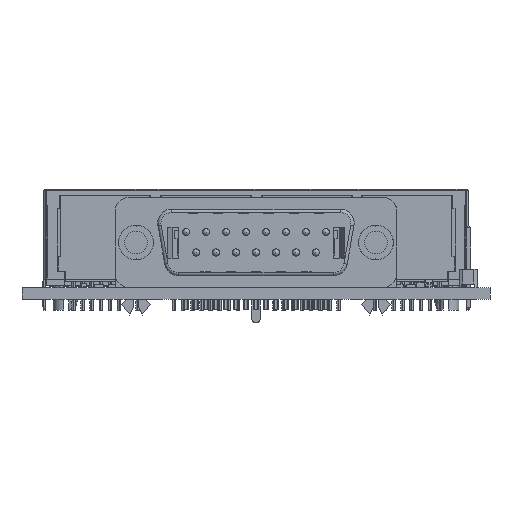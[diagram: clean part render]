
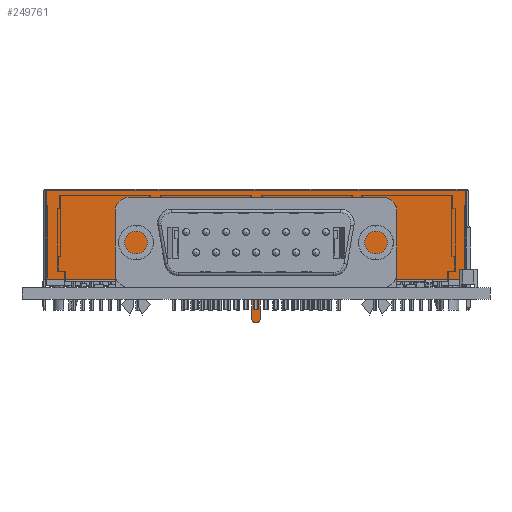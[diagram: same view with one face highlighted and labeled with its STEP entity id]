
A CAD part, front view. The second image highlights one B-rep face of the part: STEP entity #249761.
In plain terms, the highlighted planar face has unit normal (0, -1, 0).
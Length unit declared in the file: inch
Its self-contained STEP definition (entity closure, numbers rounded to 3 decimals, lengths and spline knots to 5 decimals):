
#370 = DIRECTION ( 'NONE',  ( 0., 1., 0. ) ) ;
#2899 = DIRECTION ( 'NONE',  ( 0., 0., 1. ) ) ;
#3264 = LINE ( 'NONE', #100275, #180293 ) ;
#3691 = CARTESIAN_POINT ( 'NONE',  ( -3.82835, 0.35409, 0.52913 ) ) ;
#6679 = DIRECTION ( 'NONE',  ( 1., 0., 0. ) ) ;
#10050 = CARTESIAN_POINT ( 'NONE',  ( -3.82835, 0.35409, 0.04528 ) ) ;
#10219 = DIRECTION ( 'NONE',  ( 1., 0., 0. ) ) ;
#18144 = ORIENTED_EDGE ( 'NONE', *, *, #245610, .F. ) ;
#22665 = CARTESIAN_POINT ( 'NONE',  ( -2.70079, 0.35409, -0.16732 ) ) ;
#27635 = VECTOR ( 'NONE', #139333, 39.37008 ) ;
#30532 = VECTOR ( 'NONE', #186225, 39.37008 ) ;
#33224 = EDGE_CURVE ( 'NONE', #44758, #241618, #164364, .T. ) ;
#35603 = EDGE_CURVE ( 'NONE', #69779, #212381, #254291, .T. ) ;
#35712 = CARTESIAN_POINT ( 'NONE',  ( -2.67717, 0.35409, -0.16732 ) ) ;
#40879 = CARTESIAN_POINT ( 'NONE',  ( -2.65354, 0.35409, -0.16732 ) ) ;
#44331 = AXIS2_PLACEMENT_3D ( 'NONE', #35712, #89658, #10219 ) ;
#44474 = VECTOR ( 'NONE', #92829, 39.37008 ) ;
#44758 = VERTEX_POINT ( 'NONE', #259964 ) ;
#46563 = ORIENTED_EDGE ( 'NONE', *, *, #167671, .T. ) ;
#47891 = LINE ( 'NONE', #146341, #195600 ) ;
#50536 = DIRECTION ( 'NONE',  ( -1., 0., 0. ) ) ;
#51600 = CARTESIAN_POINT ( 'NONE',  ( -3.75709, 0.35409, 0.52913 ) ) ;
#53239 = CARTESIAN_POINT ( 'NONE',  ( -1.52559, 0.35409, 0.52913 ) ) ;
#54108 = VERTEX_POINT ( 'NONE', #183049 ) ;
#56836 = VECTOR ( 'NONE', #2899, 39.37008 ) ;
#57549 = CARTESIAN_POINT ( 'NONE',  ( -2.67717, 0.35409, -0.16732 ) ) ;
#58123 = ORIENTED_EDGE ( 'NONE', *, *, #33224, .T. ) ;
#58623 = CARTESIAN_POINT ( 'NONE',  ( -2.10709, 0.35409, 0.52913 ) ) ;
#60163 = DIRECTION ( 'NONE',  ( 1., 0., 0. ) ) ;
#61062 = CARTESIAN_POINT ( 'NONE',  ( -3.82835, 0.35409, 0.52913 ) ) ;
#63952 = EDGE_CURVE ( 'NONE', #235309, #291465, #71002, .T. ) ;
#65056 = VERTEX_POINT ( 'NONE', #179749 ) ;
#67166 = VERTEX_POINT ( 'NONE', #61062 ) ;
#68508 = CARTESIAN_POINT ( 'NONE',  ( -2.70079, 0.35409, -0.16732 ) ) ;
#69779 = VERTEX_POINT ( 'NONE', #274725 ) ;
#70092 = VERTEX_POINT ( 'NONE', #99393 ) ;
#71002 = LINE ( 'NONE', #120217, #27635 ) ;
#78427 = EDGE_CURVE ( 'NONE', #142162, #70092, #204901, .T. ) ;
#82866 = ORIENTED_EDGE ( 'NONE', *, *, #261241, .F. ) ;
#83686 = VERTEX_POINT ( 'NONE', #58623 ) ;
#85349 = CARTESIAN_POINT ( 'NONE',  ( -1.52559, 0.35409, 0.04528 ) ) ;
#89658 = DIRECTION ( 'NONE',  ( 0., 1., 0. ) ) ;
#90257 = VECTOR ( 'NONE', #270096, 39.37008 ) ;
#92829 = DIRECTION ( 'NONE',  ( -1., 0., 0. ) ) ;
#99393 = CARTESIAN_POINT ( 'NONE',  ( -2.14528, 0.35409, 0.52913 ) ) ;
#100275 = CARTESIAN_POINT ( 'NONE',  ( -1.52559, 0.35409, 0.52913 ) ) ;
#100705 = DIRECTION ( 'NONE',  ( 0., 0., -1. ) ) ;
#102561 = ORIENTED_EDGE ( 'NONE', *, *, #208325, .F. ) ;
#102830 = EDGE_CURVE ( 'NONE', #142162, #128169, #239225, .T. ) ;
#104264 = CARTESIAN_POINT ( 'NONE',  ( -3.24528, 0.35409, 0.52913 ) ) ;
#106057 = CARTESIAN_POINT ( 'NONE',  ( -1.52598, 0.35409, 0.04528 ) ) ;
#106429 = VECTOR ( 'NONE', #100705, 39.37008 ) ;
#114369 = DIRECTION ( 'NONE',  ( -1., 0., 0. ) ) ;
#120025 = ORIENTED_EDGE ( 'NONE', *, *, #190289, .F. ) ;
#120217 = CARTESIAN_POINT ( 'NONE',  ( -1.52559, 0.35409, 0.04528 ) ) ;
#122306 = AXIS2_PLACEMENT_3D ( 'NONE', #243799, #370, #245358 ) ;
#128169 = VERTEX_POINT ( 'NONE', #302405 ) ;
#131129 = ORIENTED_EDGE ( 'NONE', *, *, #146800, .F. ) ;
#133534 = ORIENTED_EDGE ( 'NONE', *, *, #202315, .T. ) ;
#138377 = LINE ( 'NONE', #68508, #30532 ) ;
#139319 = ORIENTED_EDGE ( 'NONE', *, *, #241564, .T. ) ;
#139333 = DIRECTION ( 'NONE',  ( 1., 0., 0. ) ) ;
#142162 = VERTEX_POINT ( 'NONE', #292785 ) ;
#144380 = VECTOR ( 'NONE', #50536, 39.37008 ) ;
#146341 = CARTESIAN_POINT ( 'NONE',  ( -1.59528, 0.35409, 0.52913 ) ) ;
#146800 = EDGE_CURVE ( 'NONE', #65056, #128169, #222101, .T. ) ;
#152349 = CARTESIAN_POINT ( 'NONE',  ( -1.59528, 0.35409, 0.52913 ) ) ;
#152736 = CARTESIAN_POINT ( 'NONE',  ( -2.70079, 0.35409, 0.04528 ) ) ;
#164364 = LINE ( 'NONE', #85349, #199557 ) ;
#167671 = EDGE_CURVE ( 'NONE', #67166, #235309, #221703, .T. ) ;
#168445 = VERTEX_POINT ( 'NONE', #40879 ) ;
#170775 = EDGE_CURVE ( 'NONE', #44758, #168445, #177662, .T. ) ;
#171319 = LINE ( 'NONE', #268503, #144380 ) ;
#172465 = LINE ( 'NONE', #53239, #192885 ) ;
#177662 = LINE ( 'NONE', #247784, #90257 ) ;
#178882 = ORIENTED_EDGE ( 'NONE', *, *, #193450, .T. ) ;
#179749 = CARTESIAN_POINT ( 'NONE',  ( -3.20709, 0.35409, 0.52913 ) ) ;
#180269 = EDGE_LOOP ( 'NONE', ( #46563, #184571, #102561, #252309, #18144, #217241, #58123, #133534, #270438, #120025, #252620, #248582, #192641, #131129, #178882, #82866, #139319 ) ) ;
#180293 = VECTOR ( 'NONE', #279951, 39.37008 ) ;
#181361 = CIRCLE ( 'NONE', #44331, 0.02362 ) ;
#182354 = DIRECTION ( 'NONE',  ( 1., 0., 0. ) ) ;
#183049 = CARTESIAN_POINT ( 'NONE',  ( -1.52598, 0.35409, 0.52913 ) ) ;
#184571 = ORIENTED_EDGE ( 'NONE', *, *, #63952, .T. ) ;
#186000 = CARTESIAN_POINT ( 'NONE',  ( -1.52559, 0.35409, 0.52913 ) ) ;
#186225 = DIRECTION ( 'NONE',  ( 0., 0., 1. ) ) ;
#187644 = CARTESIAN_POINT ( 'NONE',  ( -3.24528, 0.35409, 0.52913 ) ) ;
#190289 = EDGE_CURVE ( 'NONE', #83686, #232681, #47891, .T. ) ;
#190374 = EDGE_CURVE ( 'NONE', #54108, #232681, #3264, .T. ) ;
#191374 = PLANE ( 'NONE',  #122306 ) ;
#192641 = ORIENTED_EDGE ( 'NONE', *, *, #102830, .T. ) ;
#192885 = VECTOR ( 'NONE', #218790, 39.37008 ) ;
#193450 = EDGE_CURVE ( 'NONE', #65056, #232587, #172465, .T. ) ;
#195600 = VECTOR ( 'NONE', #272110, 39.37008 ) ;
#199557 = VECTOR ( 'NONE', #182354, 39.37008 ) ;
#202315 = EDGE_CURVE ( 'NONE', #241618, #54108, #244745, .T. ) ;
#204901 = LINE ( 'NONE', #278152, #312101 ) ;
#206262 = CARTESIAN_POINT ( 'NONE',  ( -1.52559, 0.35409, 0.52913 ) ) ;
#208325 = EDGE_CURVE ( 'NONE', #212381, #291465, #138377, .T. ) ;
#212381 = VERTEX_POINT ( 'NONE', #22665 ) ;
#217241 = ORIENTED_EDGE ( 'NONE', *, *, #170775, .F. ) ;
#218790 = DIRECTION ( 'NONE',  ( -1., 0., 0. ) ) ;
#221703 = LINE ( 'NONE', #3691, #106429 ) ;
#222101 = LINE ( 'NONE', #253741, #237634 ) ;
#225289 = LINE ( 'NONE', #104264, #259293 ) ;
#232587 = VERTEX_POINT ( 'NONE', #187644 ) ;
#232681 = VERTEX_POINT ( 'NONE', #152349 ) ;
#235309 = VERTEX_POINT ( 'NONE', #10050 ) ;
#237634 = VECTOR ( 'NONE', #252174, 39.37008 ) ;
#239225 = LINE ( 'NONE', #206262, #44474 ) ;
#241564 = EDGE_CURVE ( 'NONE', #282681, #67166, #171319, .T. ) ;
#241618 = VERTEX_POINT ( 'NONE', #106057 ) ;
#243799 = CARTESIAN_POINT ( 'NONE',  ( -1.52559, 0.35409, 0.52953 ) ) ;
#244745 = LINE ( 'NONE', #295721, #56836 ) ;
#245358 = DIRECTION ( 'NONE',  ( 1., 0., 0. ) ) ;
#245610 = EDGE_CURVE ( 'NONE', #168445, #69779, #181361, .T. ) ;
#247784 = CARTESIAN_POINT ( 'NONE',  ( -2.65354, 0.35409, 0.04528 ) ) ;
#248582 = ORIENTED_EDGE ( 'NONE', *, *, #78427, .F. ) ;
#249761 = ADVANCED_FACE ( 'NONE', ( #267634 ), #191374, .F. ) ;
#251638 = DIRECTION ( 'NONE',  ( 0., 1., 0. ) ) ;
#252174 = DIRECTION ( 'NONE',  ( 1., 0., 0. ) ) ;
#252309 = ORIENTED_EDGE ( 'NONE', *, *, #35603, .F. ) ;
#252620 = ORIENTED_EDGE ( 'NONE', *, *, #298865, .T. ) ;
#253741 = CARTESIAN_POINT ( 'NONE',  ( -2.69528, 0.35409, 0.52913 ) ) ;
#254291 = CIRCLE ( 'NONE', #305330, 0.02362 ) ;
#259293 = VECTOR ( 'NONE', #306023, 39.37008 ) ;
#259964 = CARTESIAN_POINT ( 'NONE',  ( -2.65354, 0.35409, 0.04528 ) ) ;
#261241 = EDGE_CURVE ( 'NONE', #282681, #232587, #225289, .T. ) ;
#267634 = FACE_OUTER_BOUND ( 'NONE', #180269, .T. ) ;
#268503 = CARTESIAN_POINT ( 'NONE',  ( -1.52559, 0.35409, 0.52913 ) ) ;
#270096 = DIRECTION ( 'NONE',  ( 0., 0., -1. ) ) ;
#270438 = ORIENTED_EDGE ( 'NONE', *, *, #190374, .T. ) ;
#272110 = DIRECTION ( 'NONE',  ( 1., 0., 0. ) ) ;
#274725 = CARTESIAN_POINT ( 'NONE',  ( -2.67717, 0.35409, -0.19094 ) ) ;
#278152 = CARTESIAN_POINT ( 'NONE',  ( -2.14528, 0.35409, 0.52913 ) ) ;
#279951 = DIRECTION ( 'NONE',  ( -1., 0., 0. ) ) ;
#282681 = VERTEX_POINT ( 'NONE', #51600 ) ;
#286333 = LINE ( 'NONE', #186000, #307829 ) ;
#291465 = VERTEX_POINT ( 'NONE', #152736 ) ;
#292785 = CARTESIAN_POINT ( 'NONE',  ( -2.65709, 0.35409, 0.52913 ) ) ;
#295721 = CARTESIAN_POINT ( 'NONE',  ( -1.52598, 0.35409, 0.04528 ) ) ;
#298865 = EDGE_CURVE ( 'NONE', #83686, #70092, #286333, .T. ) ;
#302405 = CARTESIAN_POINT ( 'NONE',  ( -2.69528, 0.35409, 0.52913 ) ) ;
#305330 = AXIS2_PLACEMENT_3D ( 'NONE', #57549, #251638, #6679 ) ;
#306023 = DIRECTION ( 'NONE',  ( 1., 0., 0. ) ) ;
#307829 = VECTOR ( 'NONE', #114369, 39.37008 ) ;
#312101 = VECTOR ( 'NONE', #60163, 39.37008 ) ;
